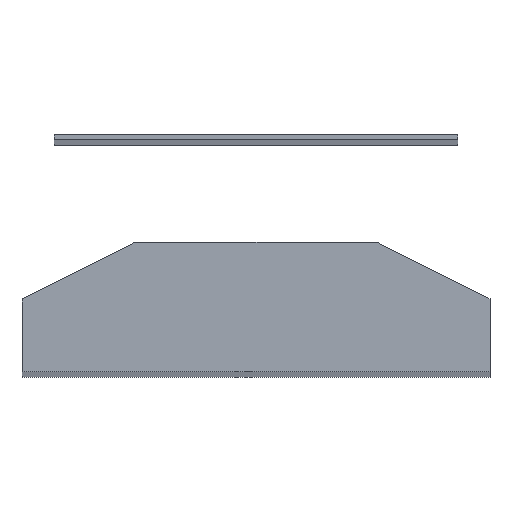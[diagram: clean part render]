
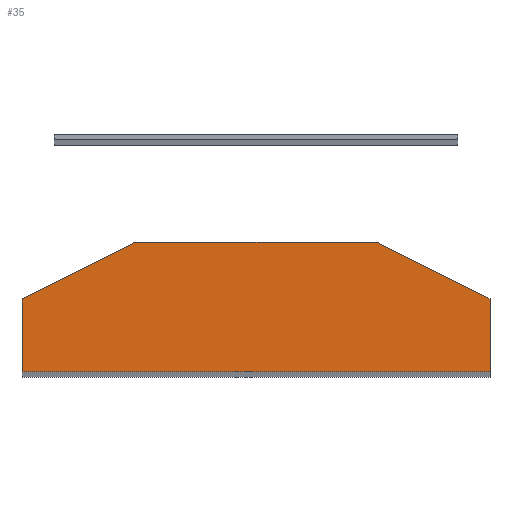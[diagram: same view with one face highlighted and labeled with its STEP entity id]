
A CAD part, top view. The second image highlights one B-rep face of the part: STEP entity #35.
In plain terms, the highlighted planar face has unit normal (0, 0, 1).
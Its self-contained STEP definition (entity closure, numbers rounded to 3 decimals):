
#23 = DIRECTION ( 'NONE',  ( -0.894, -0.447, 0. ) ) ;
#35 = ADVANCED_FACE ( 'NONE', ( #237 ), #321, .F. ) ;
#70 = DIRECTION ( 'NONE',  ( 0., 1., 0. ) ) ;
#72 = CARTESIAN_POINT ( 'NONE',  ( 290., 90., 2000. ) ) ;
#78 = DIRECTION ( 'NONE',  ( -1., 0., 0. ) ) ;
#80 = VERTEX_POINT ( 'NONE', #311 ) ;
#85 = DIRECTION ( 'NONE',  ( 1., 0., 0. ) ) ;
#91 = CARTESIAN_POINT ( 'NONE',  ( -290., 0., 2000. ) ) ;
#92 = CARTESIAN_POINT ( 'NONE',  ( -290., 90., 2000. ) ) ;
#107 = CARTESIAN_POINT ( 'NONE',  ( -290., 90., 2000. ) ) ;
#116 = DIRECTION ( 'NONE',  ( -1., 0., 0. ) ) ;
#159 = DIRECTION ( 'NONE',  ( -0.894, 0.447, 0. ) ) ;
#160 = VECTOR ( 'NONE', #23, 1000. ) ;
#167 = CARTESIAN_POINT ( 'NONE',  ( 150., 160., 2000. ) ) ;
#174 = VECTOR ( 'NONE', #70, 1000. ) ;
#177 = CARTESIAN_POINT ( 'NONE',  ( 150., 160., 2000. ) ) ;
#178 = LINE ( 'NONE', #72, #174 ) ;
#179 = VECTOR ( 'NONE', #85, 1000. ) ;
#184 = LINE ( 'NONE', #91, #179 ) ;
#194 = LINE ( 'NONE', #92, #160 ) ;
#199 = CARTESIAN_POINT ( 'NONE',  ( -150., 160., 2000. ) ) ;
#219 = VECTOR ( 'NONE', #78, 1000. ) ;
#221 = LINE ( 'NONE', #367, #219 ) ;
#227 = VECTOR ( 'NONE', #159, 1000. ) ;
#229 = LINE ( 'NONE', #167, #227 ) ;
#233 = LINE ( 'NONE', #363, #236 ) ;
#236 = VECTOR ( 'NONE', #362, 1000. ) ;
#237 = FACE_OUTER_BOUND ( 'NONE', #433, .T. ) ;
#254 = VERTEX_POINT ( 'NONE', #177 ) ;
#274 = VERTEX_POINT ( 'NONE', #346 ) ;
#276 = VERTEX_POINT ( 'NONE', #386 ) ;
#304 = EDGE_CURVE ( 'NONE', #361, #274, #233, .T. ) ;
#309 = DIRECTION ( 'NONE',  ( 0., 0., -1. ) ) ;
#311 = CARTESIAN_POINT ( 'NONE',  ( 290., 0., 2000. ) ) ;
#314 = CARTESIAN_POINT ( 'NONE',  ( 0., 0., 2000. ) ) ;
#315 = ORIENTED_EDGE ( 'NONE', *, *, #389, .T. ) ;
#321 = PLANE ( 'NONE',  #387 ) ;
#326 = VERTEX_POINT ( 'NONE', #199 ) ;
#332 = ORIENTED_EDGE ( 'NONE', *, *, #437, .T. ) ;
#346 = CARTESIAN_POINT ( 'NONE',  ( -290., 0., 2000. ) ) ;
#361 = VERTEX_POINT ( 'NONE', #107 ) ;
#362 = DIRECTION ( 'NONE',  ( 0., -1., 0. ) ) ;
#363 = CARTESIAN_POINT ( 'NONE',  ( -290., 0., 2000. ) ) ;
#367 = CARTESIAN_POINT ( 'NONE',  ( -150., 160., 2000. ) ) ;
#374 = ORIENTED_EDGE ( 'NONE', *, *, #430, .T. ) ;
#376 = ORIENTED_EDGE ( 'NONE', *, *, #432, .T. ) ;
#383 = EDGE_CURVE ( 'NONE', #276, #254, #229, .T. ) ;
#386 = CARTESIAN_POINT ( 'NONE',  ( 290., 90., 2000. ) ) ;
#387 = AXIS2_PLACEMENT_3D ( 'NONE', #314, #309, #116 ) ;
#389 = EDGE_CURVE ( 'NONE', #254, #326, #221, .T. ) ;
#394 = ORIENTED_EDGE ( 'NONE', *, *, #383, .T. ) ;
#404 = ORIENTED_EDGE ( 'NONE', *, *, #304, .T. ) ;
#430 = EDGE_CURVE ( 'NONE', #274, #80, #184, .T. ) ;
#432 = EDGE_CURVE ( 'NONE', #80, #276, #178, .T. ) ;
#433 = EDGE_LOOP ( 'NONE', ( #404, #374, #376, #394, #315, #332 ) ) ;
#437 = EDGE_CURVE ( 'NONE', #326, #361, #194, .T. ) ;
